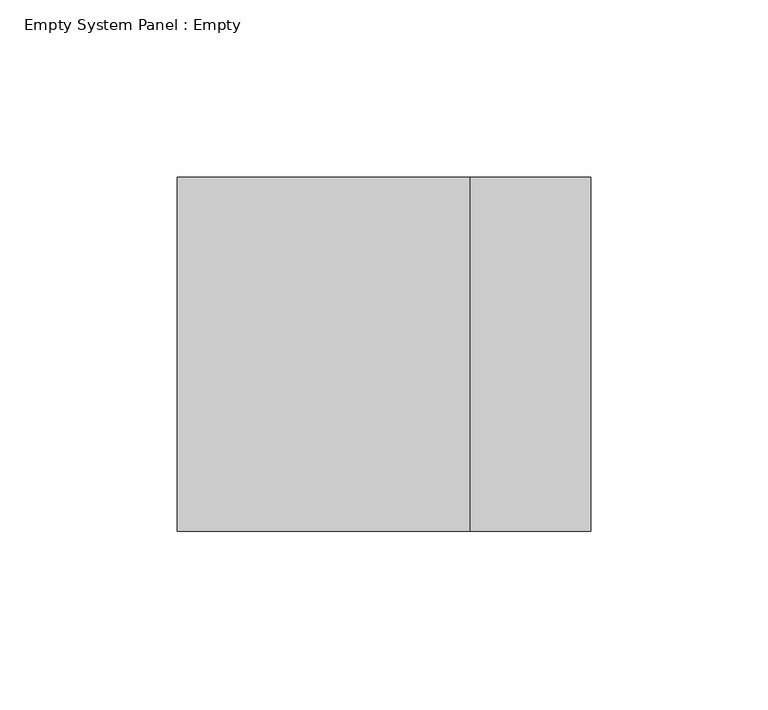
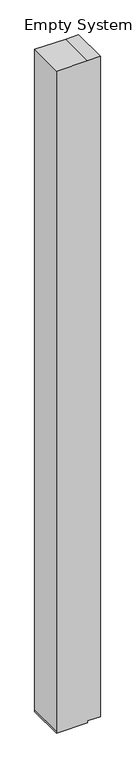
"""IFC4 building model written with IfcOpenShell, lengths in millimetres: plate geometry, Empty System Panel : Empty."""

from ifc_helpers import new_model, si_unit, frame, origin, place, context, project, spatial, polyline, outline, extrude, source, transform, mapped, element, save


def empty_system_panel_empty_7b0bd923(model_context):
    return source(origin(), model_context, "Body", "SweptSolid", [
        extrude(outline(polyline([(0.0, -58.3989079), (0.0, 24.3989079), (5.0, 24.3989079), (5.0, 58.3989079), (1860.0, 58.3989079), (1860.0, 24.3989079), (1860.0, -58.3989079), (5.0, -58.3989079), (0.0, -58.3989079)])), frame((0.0, 50.0, 0.0), z_axis=(0.0, 1.0, 0.0), x_axis=(0.0, 0.0, 1.0)), (0.0, 0.0, 1.0), 100.0),
    ])


if __name__ == "__main__":
    model = new_model("IFC4")
    model_context = context("Model", 3, world=origin())
    ifc_project = project(units=[si_unit("LENGTHUNIT", "METRE", prefix="MILLI")], contexts=[model_context])
    site = spatial("IfcSite", under=ifc_project)
    building = spatial("IfcBuilding", under=site)
    placement = place(None, origin())
    empty_system_panel_empty_shape = empty_system_panel_empty_7b0bd923(model_context)
    element("IfcPlate", 1, ObjectType="Empty System Panel : Empty", at=placement, inside=building, context=model_context, shape_type="MappedRepresentation", body=[
        mapped(empty_system_panel_empty_shape, transform((0.0, 0.0, 0.0), x_axis=(1.0, 0.0, 0.0), y_axis=(0.0, 1.0, 0.0), z_axis=(0.0, 0.0, 1.0))),
    ])
    save(model, "model.ifc")
